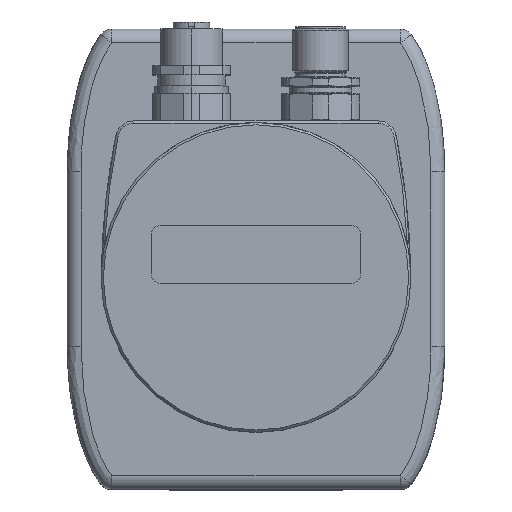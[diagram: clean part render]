
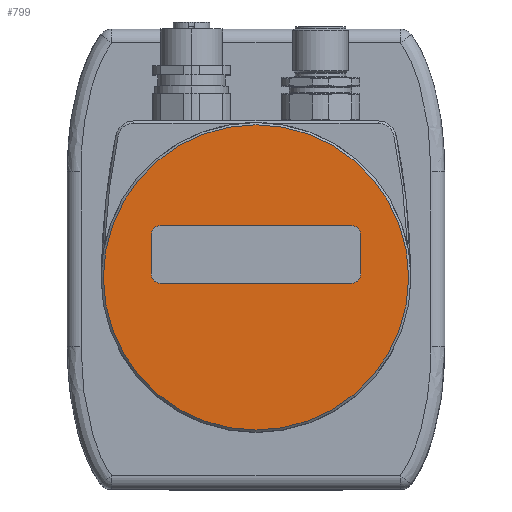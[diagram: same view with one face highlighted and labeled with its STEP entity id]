
A CAD part, top view. The second image highlights one B-rep face of the part: STEP entity #799.
In plain terms, the highlighted planar face has unit normal (0, 0, 1).
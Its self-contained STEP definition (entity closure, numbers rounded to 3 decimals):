
#327=PLANE('',#5206);
#799=ADVANCED_FACE('',(#1167,#1168),#327,.F.);
#1167=FACE_BOUND('',#1293,.T.);
#1168=FACE_BOUND('',#1294,.T.);
#1293=EDGE_LOOP('',(#2150,#2151,#2152,#2153,#2154,#2155,#2156,#2157));
#1294=EDGE_LOOP('',(#2158));
#1624=CIRCLE('',#5201,2.);
#1625=CIRCLE('',#5202,2.);
#1626=CIRCLE('',#5203,2.);
#1627=CIRCLE('',#5204,2.);
#1628=CIRCLE('',#5205,33.15);
#2150=ORIENTED_EDGE('',*,*,#3935,.T.);
#2151=ORIENTED_EDGE('',*,*,#3936,.T.);
#2152=ORIENTED_EDGE('',*,*,#3937,.T.);
#2153=ORIENTED_EDGE('',*,*,#3938,.T.);
#2154=ORIENTED_EDGE('',*,*,#3939,.T.);
#2155=ORIENTED_EDGE('',*,*,#3940,.T.);
#2156=ORIENTED_EDGE('',*,*,#3941,.T.);
#2157=ORIENTED_EDGE('',*,*,#3942,.T.);
#2158=ORIENTED_EDGE('',*,*,#3943,.T.);
#3432=VERTEX_POINT('',#12392);
#3433=VERTEX_POINT('',#12393);
#3434=VERTEX_POINT('',#12395);
#3435=VERTEX_POINT('',#12397);
#3436=VERTEX_POINT('',#12399);
#3437=VERTEX_POINT('',#12401);
#3438=VERTEX_POINT('',#12403);
#3439=VERTEX_POINT('',#12405);
#3440=VERTEX_POINT('',#12408);
#3935=EDGE_CURVE('',#3432,#3433,#1624,.T.);
#3936=EDGE_CURVE('',#3433,#3434,#4556,.T.);
#3937=EDGE_CURVE('',#3434,#3435,#1625,.T.);
#3938=EDGE_CURVE('',#3435,#3436,#4557,.T.);
#3939=EDGE_CURVE('',#3436,#3437,#1626,.T.);
#3940=EDGE_CURVE('',#3437,#3438,#4558,.T.);
#3941=EDGE_CURVE('',#3438,#3439,#1627,.T.);
#3942=EDGE_CURVE('',#3439,#3432,#4559,.T.);
#3943=EDGE_CURVE('',#3440,#3440,#1628,.T.);
#4556=LINE('',#12394,#4849);
#4557=LINE('',#12398,#4850);
#4558=LINE('',#12402,#4851);
#4559=LINE('',#12406,#4852);
#4849=VECTOR('',#5927,1.);
#4850=VECTOR('',#5930,1.);
#4851=VECTOR('',#5933,1.);
#4852=VECTOR('',#5936,1.);
#5201=AXIS2_PLACEMENT_3D('',#12391,#5925,#5926);
#5202=AXIS2_PLACEMENT_3D('',#12396,#5928,#5929);
#5203=AXIS2_PLACEMENT_3D('',#12400,#5931,#5932);
#5204=AXIS2_PLACEMENT_3D('',#12404,#5934,#5935);
#5205=AXIS2_PLACEMENT_3D('',#12407,#5937,#5938);
#5206=AXIS2_PLACEMENT_3D('',#12409,#5939,#5940);
#5925=DIRECTION('',(0.,0.,-1.));
#5926=DIRECTION('',(1.,0.,0.));
#5927=DIRECTION('',(-1.,0.,0.));
#5928=DIRECTION('',(0.,0.,-1.));
#5929=DIRECTION('',(0.,-1.,0.));
#5930=DIRECTION('',(0.,1.,0.));
#5931=DIRECTION('',(0.,0.,-1.));
#5932=DIRECTION('',(-1.,0.,0.));
#5933=DIRECTION('',(1.,0.,0.));
#5934=DIRECTION('',(0.,0.,-1.));
#5935=DIRECTION('',(0.,1.,0.));
#5936=DIRECTION('',(0.,-1.,0.));
#5937=DIRECTION('',(0.,0.,1.));
#5938=DIRECTION('',(1.,0.,0.));
#5939=DIRECTION('',(0.,0.,-1.));
#5940=DIRECTION('',(1.,0.,0.));
#12391=CARTESIAN_POINT('',(20.75,-3.25,65.));
#12392=CARTESIAN_POINT('',(22.75,-3.25,65.));
#12393=CARTESIAN_POINT('',(20.75,-5.25,65.));
#12394=CARTESIAN_POINT('',(20.75,-5.25,65.));
#12395=CARTESIAN_POINT('',(-20.75,-5.25,65.));
#12396=CARTESIAN_POINT('',(-20.75,-3.25,65.));
#12397=CARTESIAN_POINT('',(-22.75,-3.25,65.));
#12398=CARTESIAN_POINT('',(-22.75,-3.25,65.));
#12399=CARTESIAN_POINT('',(-22.75,5.25,65.));
#12400=CARTESIAN_POINT('',(-20.75,5.25,65.));
#12401=CARTESIAN_POINT('',(-20.75,7.25,65.));
#12402=CARTESIAN_POINT('',(-20.75,7.25,65.));
#12403=CARTESIAN_POINT('',(20.75,7.25,65.));
#12404=CARTESIAN_POINT('',(20.75,5.25,65.));
#12405=CARTESIAN_POINT('',(22.75,5.25,65.));
#12406=CARTESIAN_POINT('',(22.75,5.25,65.));
#12407=CARTESIAN_POINT('',(0.,-4.,65.));
#12408=CARTESIAN_POINT('',(33.15,-4.,65.));
#12409=CARTESIAN_POINT('',(0.,-4.,65.));
